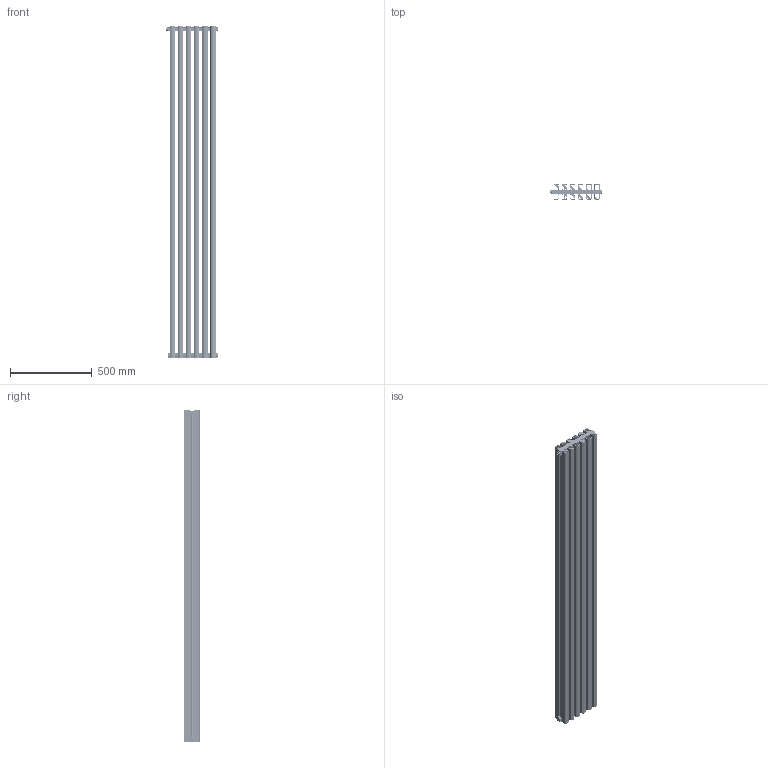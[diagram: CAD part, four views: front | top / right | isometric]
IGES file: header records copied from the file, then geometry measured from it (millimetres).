
Start section: SolidWorks IGES file using analytic representation for surfaces
Global section: file name: S:\RicercaSviluppo\01_DISEGNI\2_DISEGNI\02_ELEMENTI\39_TONALE\39_99_RICHIESTE CLIENTI\39_99_DRL\22-07-24\TONALE 2000_6.IGS; native system: SolidWorks 2024; preprocessor: SolidWorks 2024; author: massimo; date: 240722.103736; units: millimetre
Bounding box: 316.3 x 95 x 2037 mm (x, y, z)
Surface area: 8829067.2 mm2 (no closed solid volume)
Topology: 0 solids, 0 shells, 3714 faces, 45441 edges, 45369 vertices
Faces by surface type: revolution 1876, bspline 1838
